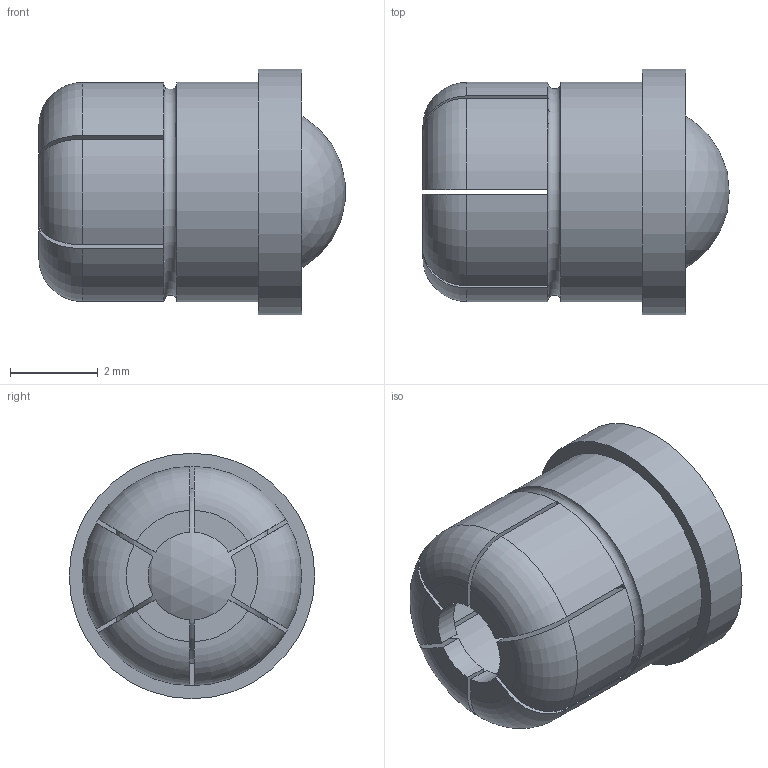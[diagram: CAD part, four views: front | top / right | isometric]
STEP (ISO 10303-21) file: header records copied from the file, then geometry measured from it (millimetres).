
FILE_DESCRIPTION( ( 'STEP AP203' ), '1' );
FILE_NAME( 'C:/Temp/Ganter_Step_05_03_2020/data/3_1/gn_614_5/Spring plunger GN 614.5-5-KU (deactivated).stp', '2020-03-12T09:12:51', ( 'License CC BY-ND 4.0' ), ( 'CADENAS' ), ' ', 'PARTsolutions', ' ' );
FILE_SCHEMA( ( 'CONFIG_CONTROL_DESIGN' ) );
Length unit declared in the file: millimetre
Products named in the file (1): _Spring plunger GN 614.5-5-KU (deactivated)
Bounding box: 6.99 x 5.6 x 5.6 mm (x, y, z)
Volume: 82.2 mm3; surface area: 260.9 mm2
Topology: 1 solids, 1 shells, 63 faces, 165 edges, 106 vertices
Faces by surface type: plane 32, cylinder 16, torus 13, sphere 2
Full cylindrical faces by diameter (mm): 3.98 x2, 5 x1, 5.6 x1
Entity records: 2044 total; most frequent: CARTESIAN_POINT 480, DIRECTION 322, ORIENTED_EDGE 314, EDGE_CURVE 157, AXIS2_PLACEMENT_3D 125, VERTEX_POINT 103, LINE 72, VECTOR 72
